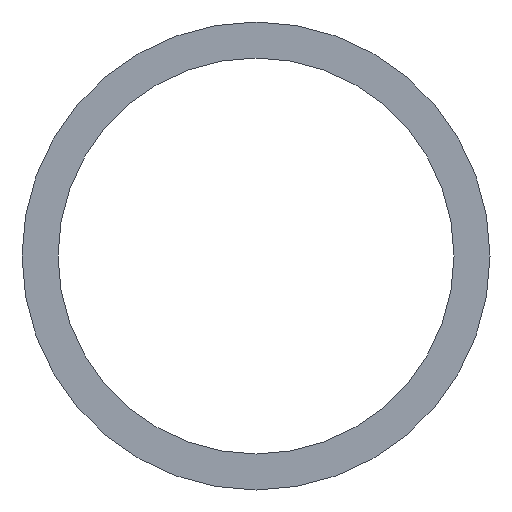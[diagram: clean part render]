
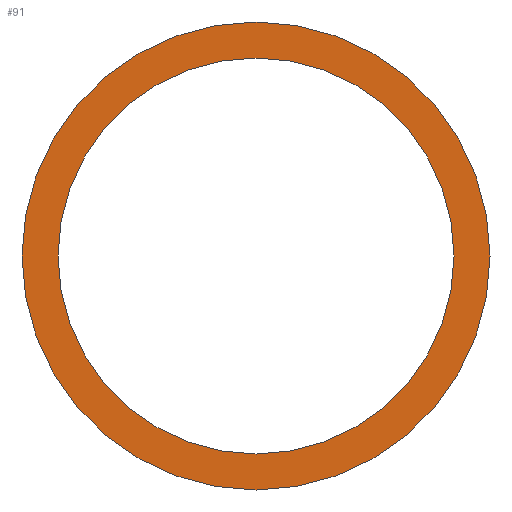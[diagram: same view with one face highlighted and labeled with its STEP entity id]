
A CAD part, front view. The second image highlights one B-rep face of the part: STEP entity #91.
In plain terms, the highlighted planar face has unit normal (0, -1, 0).
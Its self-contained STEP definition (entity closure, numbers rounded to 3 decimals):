
#2=CARTESIAN_POINT('',(0.,0.,0.));
#3=DIRECTION('',(0.,-1.,0.));
#4=DIRECTION('',(1.,0.,0.));
#5=AXIS2_PLACEMENT_3D('',#2,#3,#4);
#7=CARTESIAN_POINT('',(0.,0.,0.));
#8=DIRECTION('',(0.,-1.,0.));
#9=DIRECTION('',(-1.,0.,0.));
#10=AXIS2_PLACEMENT_3D('',#7,#8,#9);
#12=CARTESIAN_POINT('',(0.,0.,0.));
#13=DIRECTION('',(0.,1.,0.));
#14=DIRECTION('',(1.,0.,0.));
#15=AXIS2_PLACEMENT_3D('',#12,#13,#14);
#17=CARTESIAN_POINT('',(0.,0.,0.));
#18=DIRECTION('',(0.,1.,0.));
#19=DIRECTION('',(-1.,0.,0.));
#20=AXIS2_PLACEMENT_3D('',#17,#18,#19);
#58=CARTESIAN_POINT('',(5.5,0.,0.));
#59=CARTESIAN_POINT('',(-5.5,0.,0.));
#60=VERTEX_POINT('',#58);
#61=VERTEX_POINT('',#59);
#62=CARTESIAN_POINT('',(6.5,0.,0.));
#63=CARTESIAN_POINT('',(-6.5,0.,0.));
#64=VERTEX_POINT('',#62);
#65=VERTEX_POINT('',#63);
#74=CARTESIAN_POINT('',(0.,0.,0.));
#75=DIRECTION('',(0.,1.,0.));
#76=DIRECTION('',(1.,0.,0.));
#77=AXIS2_PLACEMENT_3D('',#74,#75,#76);
#78=PLANE('',#77);
#80=ORIENTED_EDGE('',*,*,#79,.T.);
#82=ORIENTED_EDGE('',*,*,#81,.T.);
#83=EDGE_LOOP('',(#80,#82));
#84=FACE_OUTER_BOUND('',#83,.F.);
#86=ORIENTED_EDGE('',*,*,#85,.T.);
#88=ORIENTED_EDGE('',*,*,#87,.T.);
#89=EDGE_LOOP('',(#86,#88));
#90=FACE_BOUND('',#89,.F.);
#91=ADVANCED_FACE('',(#84,#90),#78,.F.);
#6=CIRCLE('',#5,5.5);
#11=CIRCLE('',#10,5.5);
#16=CIRCLE('',#15,6.5);
#21=CIRCLE('',#20,6.5);
#79=EDGE_CURVE('',#64,#65,#16,.T.);
#81=EDGE_CURVE('',#65,#64,#21,.T.);
#85=EDGE_CURVE('',#60,#61,#6,.T.);
#87=EDGE_CURVE('',#61,#60,#11,.T.);
